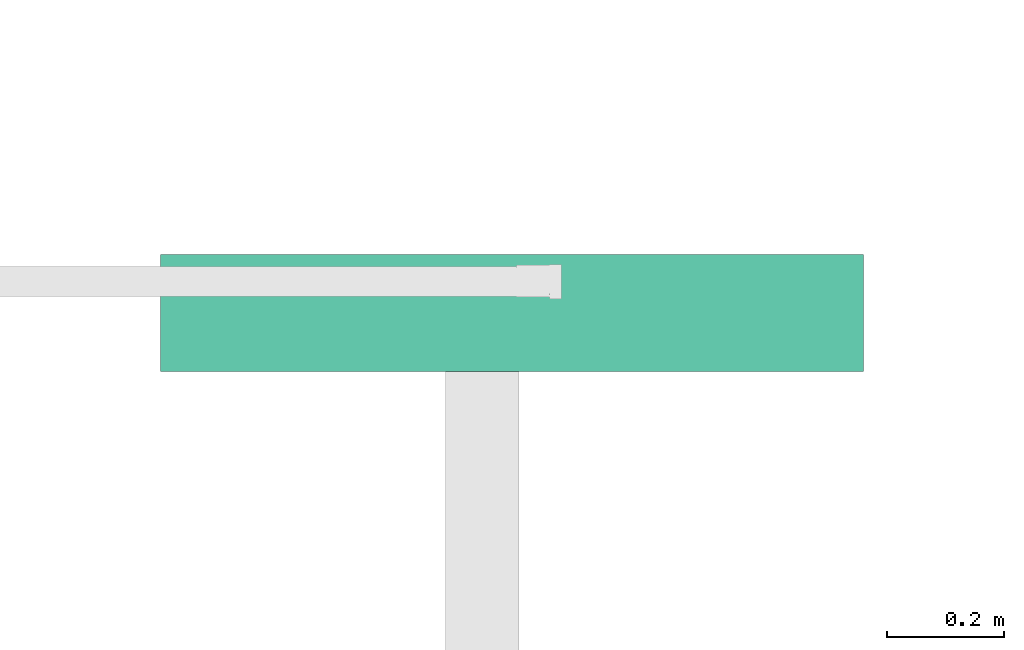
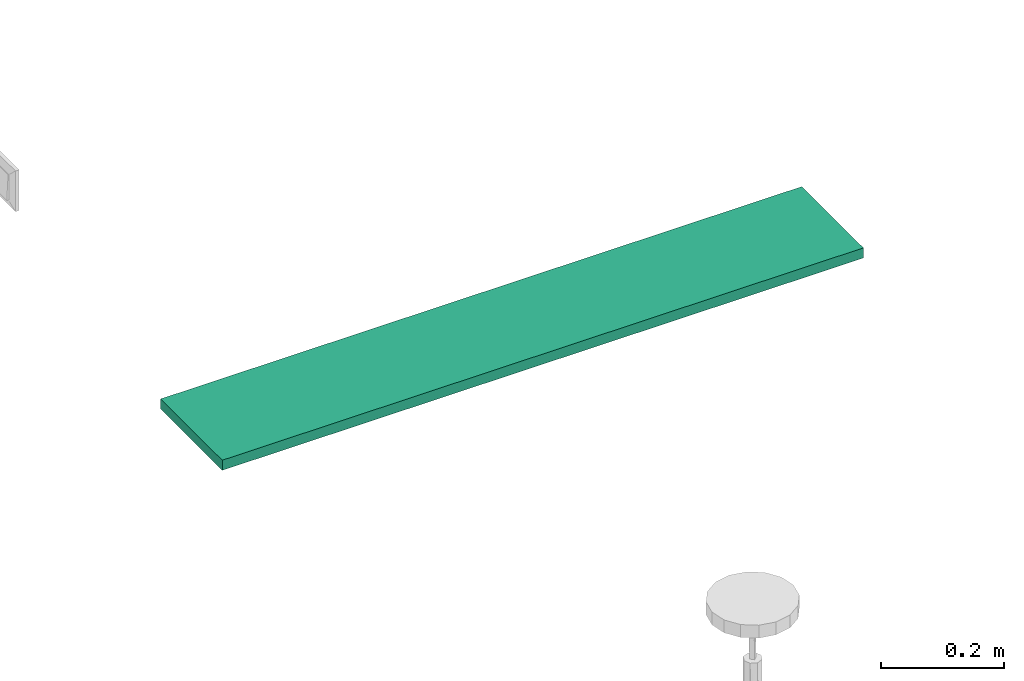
# One storey, part 24 of 153: 1 flow terminal.
"""IFC2X3 building model written with IfcOpenShell, lengths in metres."""

from ifc_helpers import new_model, entity, si_unit, converted_unit, derived_unit, direction, frame, origin, origin_2d_with_axis, place, context, subcontext, project, spatial, rectangle, extrude, source, transform, mapped, type_object, type_shapes, element, save


model = new_model("IFC2X3")

# Units and contexts
model_context = context("Model", 3, precision=1e-05, world=origin(), true_north=direction((6.12303176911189e-17, 1.0)))
body_context = subcontext(model_context, "Body", "Model", "MODEL_VIEW")
ifc_project = project(units=[si_unit("LENGTHUNIT", "METRE"), si_unit("AREAUNIT", "SQUARE_METRE"), si_unit("VOLUMEUNIT", "CUBIC_METRE"), converted_unit("PLANEANGLEUNIT", "DEGREE", entity("IfcRatioMeasure", 0.0174532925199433), si_unit("PLANEANGLEUNIT", "RADIAN"), dimensions=[0, 0, 0, 0, 0, 0, 0]), si_unit("MASSUNIT", "GRAM", prefix="KILO"), derived_unit("MASSDENSITYUNIT", [(si_unit("MASSUNIT", "GRAM", prefix="KILO"), 1), (si_unit("LENGTHUNIT", "METRE"), -3)]), si_unit("TIMEUNIT", "SECOND"), si_unit("FREQUENCYUNIT", "HERTZ"), si_unit("THERMODYNAMICTEMPERATUREUNIT", "DEGREE_CELSIUS"), derived_unit("THERMALTRANSMITTANCEUNIT", [(si_unit("MASSUNIT", "GRAM", prefix="KILO"), 1), (si_unit("THERMODYNAMICTEMPERATUREUNIT", "KELVIN"), -1), (si_unit("TIMEUNIT", "SECOND"), -3)]), derived_unit("VOLUMETRICFLOWRATEUNIT", [(si_unit("LENGTHUNIT", "METRE"), 3), (si_unit("TIMEUNIT", "SECOND"), -1)]), si_unit("ELECTRICCURRENTUNIT", "AMPERE"), si_unit("ELECTRICVOLTAGEUNIT", "VOLT"), si_unit("POWERUNIT", "WATT"), si_unit("FORCEUNIT", "NEWTON"), si_unit("ILLUMINANCEUNIT", "LUX"), si_unit("LUMINOUSFLUXUNIT", "LUMEN"), si_unit("LUMINOUSINTENSITYUNIT", "CANDELA"), derived_unit("USERDEFINED", [(si_unit("MASSUNIT", "GRAM", prefix="KILO"), -1), (si_unit("LENGTHUNIT", "METRE"), -2), (si_unit("TIMEUNIT", "SECOND"), 3), (si_unit("LUMINOUSFLUXUNIT", "LUMEN"), 1)]), derived_unit("LINEARVELOCITYUNIT", [(si_unit("LENGTHUNIT", "METRE"), 1), (si_unit("TIMEUNIT", "SECOND"), -1)]), si_unit("PRESSUREUNIT", "PASCAL"), derived_unit("USERDEFINED", [(si_unit("LENGTHUNIT", "METRE"), -2), (si_unit("MASSUNIT", "GRAM", prefix="KILO"), 1), (si_unit("TIMEUNIT", "SECOND"), -2)])], contexts=[model_context])

# Site, building, storey
site_placement = place(None, origin())
site = spatial("IfcSite", under=ifc_project, at=site_placement, Name="Default", CompositionType="ELEMENT")
building_placement = place(site_placement, origin())
building = spatial("IfcBuilding", under=site, at=building_placement, CompositionType="ELEMENT")
storey_placement = place(building_placement, frame((0.0, 0.0, -4.62)))
storey = spatial("IfcBuildingStorey", under=building, at=storey_placement, Name="S02", CompositionType="ELEMENT", Elevation=-4.62)

# Flow terminal
light_fixture_type = type_object("IfcLightFixtureType", Name="B_Réglete étanche", PredefinedType="NOTDEFINED")
shared_shape = source(origin(), body_context, "Body", "SweptSolid", [
    extrude(rectangle(XDim=0.199999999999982, YDim=1.2, at=origin_2d_with_axis()), frame((0.0, 0.0, 0.0), z_axis=(0.0, 0.0, 1.0), x_axis=(0.0, 1.0, 0.0)), (0.0, 0.0, 1.0), 0.02),
])
type_shapes(light_fixture_type, [shared_shape])
flow_terminal_placement = place(storey_placement, frame((63.5406087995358, -190.967084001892, 4.175), z_axis=(0.0, 0.0, -1.0), x_axis=(-1.0, 0.0, 0.0)))
element("IfcFlowTerminal", 1, at=flow_terminal_placement, inside=storey, type_object=light_fixture_type, Name="II_PREF_Type B Réglette étanche:B_Réglete étanche", ObjectType="II_PREF_Type B Réglette étanche:B_Réglete étanche", context=body_context, shape_type="MappedRepresentation", body=[
    mapped(shared_shape, transform((0.0, 0.0, 0.0), scale=1.0)),
])

save(model, "model.ifc")
